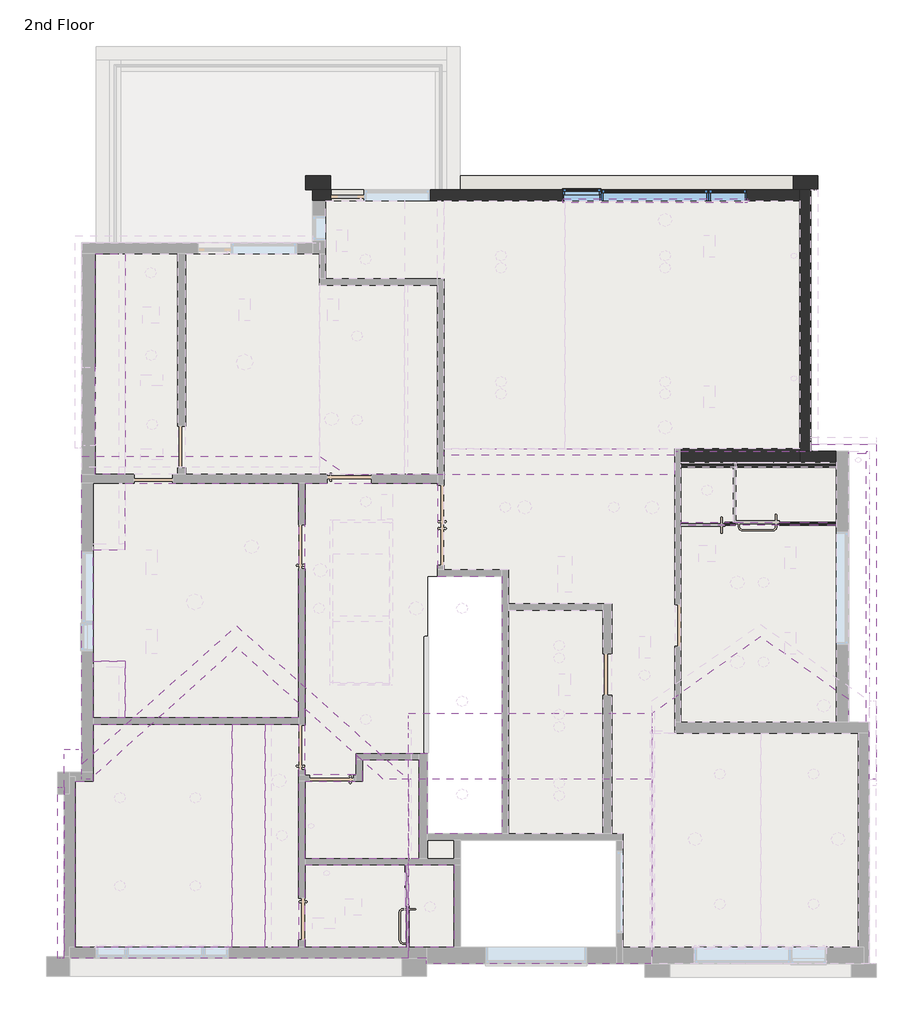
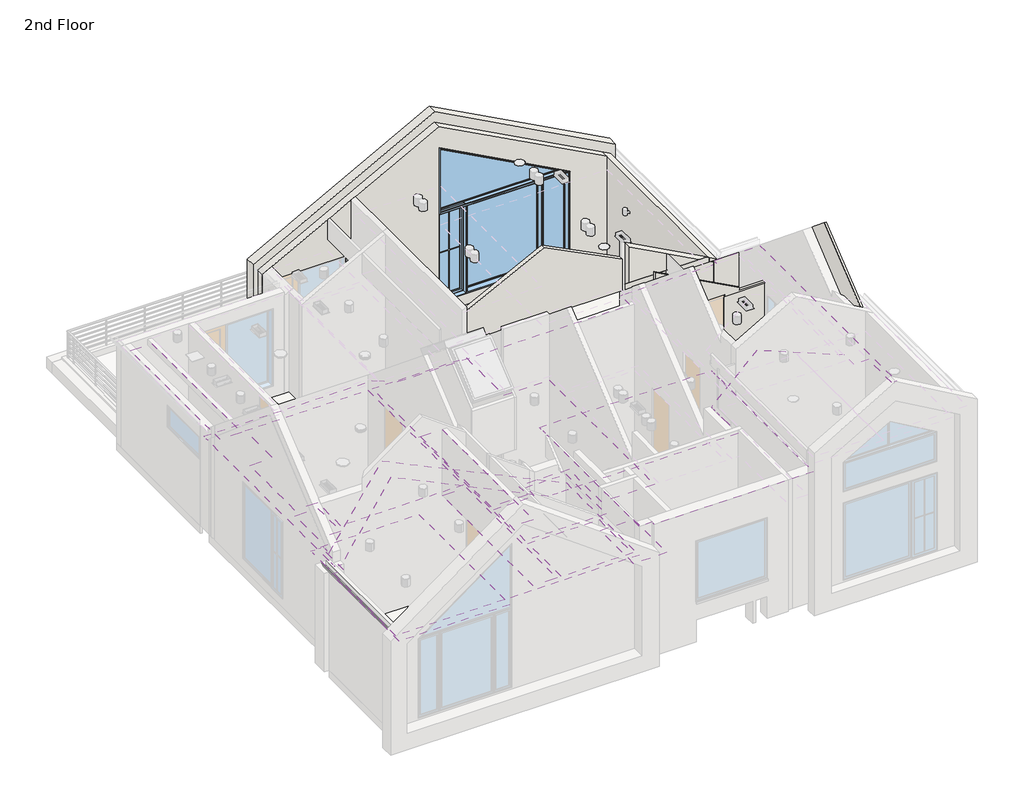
# One storey, part 3 of 6: 12 walls, 10 coverings, 4 windows, 3 roofs, 1 pipe segment, 1 slab.
"""IFC4 building model written with IfcOpenShell, lengths in millimetres."""

from ifc_helpers import new_model, si_unit, point, frame, frame_2d, origin, place, context, project, spatial, polyline, circle_curve, ellipse_curve, trimmed, segment, composite_curve, outline, extrude, faceted_brep, transform, mapped, element, save
from ifc_brep_helpers import plane_surface, revolved_surface, advanced_brep
from components import default_1_c5782fb5, default_1_9d9d8e98, default_1_65789cbf, triangle_window_default_1_4486b977

model = new_model("IFC4")

# Units and contexts
model_context = context("Model", 3, world=origin())
ifc_project = project(units=[si_unit("LENGTHUNIT", "METRE", prefix="MILLI")], contexts=[model_context])

# Site, building, storey
site = spatial("IfcSite", under=ifc_project)
building = spatial("IfcBuilding", under=site)
storey = spatial("IfcBuildingStorey", under=building, Name="2nd Floor", Elevation=3048.0)

# Coverings
placement = place(None, origin())
element("IfcCovering", 1, ObjectType="1/2\" Ceiling", at=placement, inside=storey, context=model_context, shape_type="SweptSolid", body=[
    extrude(outline(polyline([(10907.0017773, 3624.5909405), (11529.2049773, 3624.5909405), (11529.2049773, -490.2090595), (10907.0017773, -490.2090595), (10907.0017773, 3624.5909405)]), holes=[composite_curve([segment(trimmed(circle_curve(frame_2d((11218.1517773, 1567.1909405)), 87.3), [point((11305.4517773, 1567.1909405))], [point((11130.8517773, 1567.1909405))], True, "CARTESIAN"), True, "CONTINUOUS"), segment(trimmed(circle_curve(frame_2d((11218.1517773, 1567.1909405)), 87.3), [point((11130.8517773, 1567.1909405))], [point((11305.4517773, 1567.1909405))], True, "CARTESIAN"), True, "CONTINUOUS")], self_intersect=False)]), frame((0.0, 0.0, 5791.2), z_axis=(0.0, 0.0, 1.0), x_axis=(1.0, 0.0, 0.0)), (0.0, 0.0, 1.0), 12.7),
])
element("IfcCovering", 2, ObjectType="1/2\" Ceiling", at=placement, inside=storey, context=model_context, shape_type="SweptSolid", body=[
    extrude(outline(polyline([(10297.4017773, 3624.5909405), (10907.0017773, 3624.5909405), (10907.0017773, -490.2090595), (10297.4017773, -490.2090595), (10297.4017773, 3624.5909405)])), frame((0.0, 0.0, 7620.0), z_axis=(0.0, 0.0, 1.0), x_axis=(1.0, 0.0, 0.0)), (0.0, 0.0, 1.0), 12.7),
])
element("IfcCovering", 3, ObjectType="1/2\" Ceiling", at=placement, inside=storey, context=model_context, shape_type="SweptSolid", body=[
    extrude(outline(polyline([(11529.2049773, 8069.5909405), (11529.2049773, 3738.8909405), (8328.9017773, 3738.8909405), (8328.9017773, 4786.6409405), (7731.9049773, 4786.6409405), (7731.9049773, 6837.6909405), (8328.9017773, 6837.6909405), (8328.9017773, 8069.5909405), (11529.2049773, 8069.5909405)]), holes=[polyline([(8728.9517773, 6818.6409405), (8728.9517773, 6399.5409405), (8894.0517773, 6399.5409405), (8894.0517773, 6818.6409405), (8728.9517773, 6818.6409405)]), polyline([(8728.9517773, 4939.0409405), (8894.0517773, 4939.0409405), (8894.0517773, 5358.1409405), (8728.9517773, 5358.1409405), (8728.9517773, 4939.0409405)])]), frame((0.0, 0.0, 5791.2), z_axis=(0.0, 0.0, 1.0), x_axis=(1.0, 0.0, 0.0)), (0.0, 0.0, 1.0), 12.7),
])
element("IfcCovering", 4, ObjectType="1/2\" Ceiling", at=placement, inside=storey, context=model_context, shape_type="SweptSolid", body=[
    extrude(outline(polyline([(8328.9017773, 3738.8909405), (7731.9049773, 3738.8909405), (7731.9049773, 4786.6409405), (8328.9017773, 4786.6409405), (8328.9017773, 3738.8909405)])), frame((0.0, 0.0, 5638.8), z_axis=(0.0, 0.0, 1.0), x_axis=(1.0, 0.0, 0.0)), (0.0, 0.0, 1.0), 12.7),
])
element("IfcCovering", 5, ObjectType="1/2\" Ceiling", at=placement, inside=storey, context=model_context, shape_type="SweptSolid", body=[
    extrude(outline(polyline([(8328.9017773, 8069.5909405), (8328.9017773, 6837.6909405), (7731.9049773, 6837.6909405), (7731.9049773, 8069.5909405), (8328.9017773, 8069.5909405)])), frame((0.0, 0.0, 5638.8), z_axis=(0.0, 0.0, 1.0), x_axis=(1.0, 0.0, 0.0)), (0.0, 0.0, 1.0), 12.7),
    extrude(outline(polyline([(8328.9017773, 8234.6909405), (7770.0049773, 8234.6909405), (7770.0049773, 12298.6909405), (8328.9017773, 12298.6909405), (8328.9017773, 8234.6909405)])), frame((0.0, 0.0, 5638.8), z_axis=(0.0, 0.0, 1.0), x_axis=(1.0, 0.0, 0.0)), (0.0, 0.0, 1.0), 12.7),
])
element("IfcCovering", 6, ObjectType="1/2\" Ceiling", at=placement, inside=storey, context=model_context, shape_type="SweptSolid", body=[
    extrude(outline(polyline([(13504.1517773, -490.2090595), (11643.5049773, -490.2090595), (11643.5049773, 1027.4409405), (13504.1517773, 1027.4409405), (13504.1517773, -490.2090595)]), holes=[polyline([(12176.8033398, -128.2590595), (12176.8033398, 36.8409405), (11808.5033398, 36.8409405), (11808.5033398, -128.2590595), (12176.8033398, -128.2590595)])]), frame((0.0, 0.0, 5791.2), z_axis=(0.0, 0.0, 1.0), x_axis=(1.0, 0.0, 0.0)), (0.0, 0.0, 1.0), 12.7),
])
element("IfcCovering", 7, ObjectType="1/2\" Ceiling", at=placement, inside=storey, context=model_context, shape_type="SweptSolid", body=[
    extrude(outline(polyline([(14399.5017773, -490.2090595), (13529.5517773, -490.2090595), (13529.5517773, 1027.4409405), (14399.5017773, 1027.4409405), (14399.5017773, -490.2090595)]), holes=[composite_curve([segment(trimmed(circle_curve(frame_2d((13953.8080273, 252.7409405)), 87.3), [point((14041.1080273, 252.7409405))], [point((13866.5080273, 252.7409405))], True, "CARTESIAN"), True, "CONTINUOUS"), segment(trimmed(circle_curve(frame_2d((13953.8080273, 252.7409405)), 87.3), [point((13866.5080273, 252.7409405))], [point((14041.1080273, 252.7409405))], True, "CARTESIAN"), True, "CONTINUOUS")], self_intersect=False)]), frame((0.0, 0.0, 5486.4), z_axis=(0.0, 0.0, 1.0), x_axis=(1.0, 0.0, 0.0)), (0.0, 0.0, 1.0), 12.7),
])
element("IfcCovering", 8, ObjectType="1/2\" Ceiling", at=placement, inside=storey, context=model_context, shape_type="SweptSolid", body=[
    extrude(outline(polyline([(12704.0673773, 2964.1909405), (13751.6081773, 2964.1909405), (13751.6081773, 1141.7409405), (11643.5049773, 1141.7409405), (11643.5049773, 2570.4909405), (12704.0673773, 2570.4909405), (12704.0673773, 2964.1909405)])), frame((0.0, 0.0, 5791.2), z_axis=(0.0, 0.0, 1.0), x_axis=(1.0, 0.0, 0.0)), (0.0, 0.0, 1.0), 12.7),
])
element("IfcCovering", 9, ObjectType="1/2\" Ceiling", at=placement, inside=storey, context=model_context, shape_type="SweptSolid", body=[
    extrude(outline(polyline([(15282.0549773, 6355.0909405), (15282.0549773, 1598.9409405), (13904.0081773, 1598.9409405), (13904.0081773, 3078.4909405), (12589.7673773, 3078.4909405), (12589.7673773, 2684.7909405), (11643.5049773, 2684.7909405), (11643.5049773, 8069.5909405), (14094.6049773, 8069.5909405), (14094.6049773, 6355.0909405), (15282.0549773, 6355.0909405)]), holes=[composite_curve([segment(trimmed(circle_curve(frame_2d((12767.5517773, 3707.1409405)), 87.3), [point((12854.8517773, 3707.1409405))], [point((12680.2517773, 3707.1409405))], True, "CARTESIAN"), True, "CONTINUOUS"), segment(trimmed(circle_curve(frame_2d((12767.5517773, 3707.1409405)), 87.3), [point((12680.2517773, 3707.1409405))], [point((12854.8517773, 3707.1409405))], True, "CARTESIAN"), True, "CONTINUOUS")], self_intersect=False), composite_curve([segment(trimmed(circle_curve(frame_2d((14545.5517773, 5758.1909405)), 87.3), [point((14632.8517773, 5758.1909405))], [point((14458.2517773, 5758.1909405))], True, "CARTESIAN"), True, "CONTINUOUS"), segment(trimmed(circle_curve(frame_2d((14545.5517773, 5758.1909405)), 87.3), [point((14458.2517773, 5758.1909405))], [point((14632.8517773, 5758.1909405))], True, "CARTESIAN"), True, "CONTINUOUS")], self_intersect=False), composite_curve([segment(trimmed(circle_curve(frame_2d((14545.5517773, 4043.6909405)), 87.3), [point((14632.8517773, 4043.6909405))], [point((14458.2517773, 4043.6909405))], True, "CARTESIAN"), True, "CONTINUOUS"), segment(trimmed(circle_curve(frame_2d((14545.5517773, 4043.6909405)), 87.3), [point((14458.2517773, 4043.6909405))], [point((14632.8517773, 4043.6909405))], True, "CARTESIAN"), True, "CONTINUOUS")], self_intersect=False), composite_curve([segment(trimmed(circle_curve(frame_2d((14545.5517773, 2329.1909405)), 87.3), [point((14458.2517773, 2329.1909405))], [point((14632.8517773, 2329.1909405))], True, "CARTESIAN"), True, "CONTINUOUS"), segment(trimmed(circle_curve(frame_2d((14545.5517773, 2329.1909405)), 87.3), [point((14632.8517773, 2329.1909405))], [point((14458.2517773, 2329.1909405))], True, "CARTESIAN"), True, "CONTINUOUS")], self_intersect=False), composite_curve([segment(trimmed(circle_curve(frame_2d((11903.9517773, 5758.1909405)), 87.3), [point((11991.2517773, 5758.1909405))], [point((11816.6517773, 5758.1909405))], True, "CARTESIAN"), True, "CONTINUOUS"), segment(trimmed(circle_curve(frame_2d((11903.9517773, 5758.1909405)), 87.3), [point((11816.6517773, 5758.1909405))], [point((11991.2517773, 5758.1909405))], True, "CARTESIAN"), True, "CONTINUOUS")], self_intersect=False), polyline([(13205.6049773, 4392.9409405), (13205.6049773, 7339.3409405), (12157.2979371, 7339.3409405), (12157.2979371, 4392.9409405), (13205.6049773, 4392.9409405)]), composite_curve([segment(trimmed(circle_curve(frame_2d((12767.5517773, 7726.6909405)), 87.3), [point((12854.8517773, 7726.6909405))], [point((12680.2517773, 7726.6909405))], True, "CARTESIAN"), True, "CONTINUOUS"), segment(trimmed(circle_curve(frame_2d((12767.5517773, 7726.6909405)), 87.3), [point((12680.2517773, 7726.6909405))], [point((12854.8517773, 7726.6909405))], True, "CARTESIAN"), True, "CONTINUOUS")], self_intersect=False), polyline([(13237.4517773, 7840.9909405), (13072.3517773, 7840.9909405), (13072.3517773, 7421.8909405), (13237.4517773, 7421.8909405), (13237.4517773, 7840.9909405)])]), frame((0.0, 0.0, 5791.2), z_axis=(0.0, 0.0, 1.0), x_axis=(1.0, 0.0, 0.0)), (0.0, 0.0, 1.0), 12.7),
])
element("IfcCovering", 10, ObjectType="1/2\" Ceiling", at=placement, inside=storey, context=model_context, shape_type="AdvancedBrep", body=[
    advanced_brep(
    [(7731.9049773, 2570.4909405, 5739.4345252), (7408.2871773, 2570.4909405, 5502.1481369), (7408.2871773, -490.2090595, 5502.1481369), (10297.4017773, -490.2090595, 7620.5346065), (10297.4017773, 3624.5909405, 7620.5346065), (7731.9049773, 3624.5909405, 5739.4345252), (8230.2843657, 2178.3909405, 6104.8614117), (8230.2843657, 2352.9909405, 6104.8614117), (9621.6166892, 2178.3909405, 7125.0284791), (9621.6166892, 2352.9909405, 7125.0284791), (8230.2843657, 552.7909405, 6104.8614117), (8230.2843657, 727.3909405, 6104.8614117), (9621.6166892, 552.7909405, 7125.0284791), (9621.6166892, 727.3909405, 7125.0284791), (7408.2871773, 2570.4909405, 5486.4), (7731.9049773, 2570.4909405, 5723.6863883), (7731.9049773, 3624.5909405, 5723.6863883), (10297.4017773, 3624.5909405, 7604.7864697), (10297.4017773, -490.2090595, 7604.7864697), (7408.2871773, -490.2090595, 5486.4), (8161.0019077, 2318.8062021, 6038.3132748), (8161.0019077, 2212.575679, 6038.3132748), (8230.2843657, 2178.3909405, 6089.1132748), (8230.2843657, 2352.9909405, 6089.1132748), (9552.3342312, 2318.8062021, 7058.4803422), (9552.3342312, 2212.575679, 7058.4803422), (9621.6166892, 2178.3909405, 7109.2803422), (9621.6166892, 2352.9909405, 7109.2803422), (8161.0019077, 693.2062021, 6038.3132748), (8161.0019077, 586.975679, 6038.3132748), (8230.2843657, 552.7909405, 6089.1132748), (8230.2843657, 727.3909405, 6089.1132748), (9552.3342312, 693.2062021, 7058.4803422), (9552.3342312, 586.975679, 7058.4803422), (9621.6166892, 552.7909405, 7109.2803422), (9621.6166892, 727.3909405, 7109.2803422)],
    [
        (0, 1),
        (1, 2),
        (2, 3),
        (3, 4),
        (4, 5),
        (5, 0),
        (6, 7, ellipse_curve(frame((8230.2843657, 2265.6909405, 6104.8614117), z_axis=(0.5913096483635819, 0.0, -0.806444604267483), x_axis=(0.8064446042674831, 0.0, 0.5913096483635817)), 108.2529408, 87.3)),
        (7, 6, ellipse_curve(frame((8230.2843657, 2265.6909405, 6104.8614117), z_axis=(0.5913096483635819, 0.0, -0.806444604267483), x_axis=(0.8064446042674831, 0.0, 0.5913096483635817)), 108.2529408, 87.3)),
        (8, 9, ellipse_curve(frame((9621.6166892, 2265.6909405, 7125.0284791), z_axis=(0.5913096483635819, 0.0, -0.806444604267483), x_axis=(0.8064446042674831, 0.0, 0.5913096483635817)), 108.2529408, 87.3)),
        (9, 8, ellipse_curve(frame((9621.6166892, 2265.6909405, 7125.0284791), z_axis=(0.5913096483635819, 0.0, -0.806444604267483), x_axis=(0.8064446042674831, 0.0, 0.5913096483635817)), 108.2529408, 87.3)),
        (10, 11, ellipse_curve(frame((8230.2843657, 640.0909405, 6104.8614117), z_axis=(0.5913096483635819, 0.0, -0.806444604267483), x_axis=(0.8064446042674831, 0.0, 0.5913096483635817)), 108.2529408, 87.3)),
        (11, 10, ellipse_curve(frame((8230.2843657, 640.0909405, 6104.8614117), z_axis=(0.5913096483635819, 0.0, -0.806444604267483), x_axis=(0.8064446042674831, 0.0, 0.5913096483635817)), 108.2529408, 87.3)),
        (12, 13, ellipse_curve(frame((9621.6166892, 640.0909405, 7125.0284791), z_axis=(0.5913096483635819, 0.0, -0.806444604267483), x_axis=(0.8064446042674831, 0.0, 0.5913096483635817)), 108.2529408, 87.3)),
        (13, 12, ellipse_curve(frame((9621.6166892, 640.0909405, 7125.0284791), z_axis=(0.5913096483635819, 0.0, -0.806444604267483), x_axis=(0.8064446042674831, 0.0, 0.5913096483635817)), 108.2529408, 87.3)),
        (14, 15),
        (15, 16),
        (16, 17),
        (17, 18),
        (18, 19),
        (19, 14),
        (20, 21),
        (21, 22, ellipse_curve(frame((8230.2843657, 2265.6909405, 6089.1132748), z_axis=(-0.5913096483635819, 0.0, 0.806444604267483), x_axis=(0.8064446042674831, 0.0, 0.5913096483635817)), 108.2529408, 87.3)),
        (22, 23, ellipse_curve(frame((8230.2843657, 2265.6909405, 6089.1132748), z_axis=(-0.5913096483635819, 0.0, 0.806444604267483), x_axis=(0.8064446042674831, 0.0, 0.5913096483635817)), 108.2529408, 87.3)),
        (23, 20, ellipse_curve(frame((8230.2843657, 2265.6909405, 6089.1132748), z_axis=(-0.5913096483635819, 0.0, 0.806444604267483), x_axis=(0.8064446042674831, 0.0, 0.5913096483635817)), 108.2529408, 87.3)),
        (24, 25),
        (25, 26, ellipse_curve(frame((9621.6166892, 2265.6909405, 7109.2803422), z_axis=(-0.5913096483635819, 0.0, 0.806444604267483), x_axis=(0.8064446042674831, 0.0, 0.5913096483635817)), 108.2529408, 87.3)),
        (26, 27, ellipse_curve(frame((9621.6166892, 2265.6909405, 7109.2803422), z_axis=(-0.5913096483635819, 0.0, 0.806444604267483), x_axis=(0.8064446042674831, 0.0, 0.5913096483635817)), 108.2529408, 87.3)),
        (27, 24, ellipse_curve(frame((9621.6166892, 2265.6909405, 7109.2803422), z_axis=(-0.5913096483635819, 0.0, 0.806444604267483), x_axis=(0.8064446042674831, 0.0, 0.5913096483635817)), 108.2529408, 87.3)),
        (28, 29),
        (29, 30, ellipse_curve(frame((8230.2843657, 640.0909405, 6089.1132748), z_axis=(-0.5913096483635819, 0.0, 0.806444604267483), x_axis=(0.8064446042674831, 0.0, 0.5913096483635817)), 108.2529408, 87.3)),
        (30, 31, ellipse_curve(frame((8230.2843657, 640.0909405, 6089.1132748), z_axis=(-0.5913096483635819, 0.0, 0.806444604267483), x_axis=(0.8064446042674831, 0.0, 0.5913096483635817)), 108.2529408, 87.3)),
        (31, 28, ellipse_curve(frame((8230.2843657, 640.0909405, 6089.1132748), z_axis=(-0.5913096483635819, 0.0, 0.806444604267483), x_axis=(0.8064446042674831, 0.0, 0.5913096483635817)), 108.2529408, 87.3)),
        (32, 33),
        (33, 34, ellipse_curve(frame((9621.6166892, 640.0909405, 7109.2803422), z_axis=(-0.5913096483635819, 0.0, 0.806444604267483), x_axis=(0.8064446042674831, 0.0, 0.5913096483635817)), 108.2529408, 87.3)),
        (34, 35, ellipse_curve(frame((9621.6166892, 640.0909405, 7109.2803422), z_axis=(-0.5913096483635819, 0.0, 0.806444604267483), x_axis=(0.8064446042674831, 0.0, 0.5913096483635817)), 108.2529408, 87.3)),
        (35, 32, ellipse_curve(frame((9621.6166892, 640.0909405, 7109.2803422), z_axis=(-0.5913096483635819, 0.0, 0.806444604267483), x_axis=(0.8064446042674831, 0.0, 0.5913096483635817)), 108.2529408, 87.3)),
        (0, 15),
        (14, 1),
        (19, 2),
        (18, 3),
        (17, 4),
        (16, 5),
        (20, 21, circle_curve(frame((8230.2843657, 2265.6909405, 6038.3132748), z_axis=(0.0, 0.0, 1.0), x_axis=(0.0, 1.0, 0.0)), 87.3)),
        (23, 7),
        (6, 22),
        (24, 25, circle_curve(frame((9621.6166892, 2265.6909405, 7058.4803422), z_axis=(0.0, 0.0, 1.0), x_axis=(0.0, 1.0, 0.0)), 87.3)),
        (27, 9),
        (8, 26),
        (28, 29, circle_curve(frame((8230.2843657, 640.0909405, 6038.3132748), z_axis=(0.0, 0.0, 1.0), x_axis=(0.0, 1.0, 0.0)), 87.3)),
        (31, 11),
        (10, 30),
        (32, 33, circle_curve(frame((9621.6166892, 640.0909405, 7058.4803422), z_axis=(0.0, 0.0, 1.0), x_axis=(0.0, 1.0, 0.0)), 87.3)),
        (35, 13),
        (12, 34),
    ],
    [
        plane_surface(frame((7408.2871773, -490.2090595, 5502.1481369), z_axis=(-0.5913096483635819, 0.0, 0.806444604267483), x_axis=(0.806444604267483, 0.0, 0.5913096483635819))),
        plane_surface(frame((7408.2871773, -490.2090595, 5486.4), z_axis=(0.5913096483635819, 0.0, -0.806444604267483), x_axis=(-0.806444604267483, 0.0, -0.5913096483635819))),
        plane_surface(frame((7731.9049773, 2570.4909405, 5739.4345252), z_axis=(0.0, 1.0, 0.0), x_axis=(0.0, 0.0, -1.0))),
        plane_surface(frame((7408.2871773, 2570.4909405, 5502.1481369), z_axis=(-1.0, 0.0, 0.0), x_axis=(0.0, 0.0, -1.0))),
        plane_surface(frame((7408.2871773, -490.2090595, 5502.1481369), z_axis=(0.0, -1.0, 0.0), x_axis=(0.0, 0.0, -1.0))),
        plane_surface(frame((10297.4017773, -490.2090595, 7620.5346065), z_axis=(1.0, 0.0, 0.0), x_axis=(0.0, 0.0, -1.0))),
        plane_surface(frame((10297.4017773, 3624.5909405, 7620.5346065), z_axis=(0.0, 1.0, 0.0), x_axis=(0.0, 0.0, -1.0))),
        plane_surface(frame((7731.9049773, 3624.5909405, 5739.4345252), z_axis=(-1.0, 0.0, 0.0), x_axis=(0.0, 0.0, -1.0))),
        plane_surface(frame((8230.2843657, 2352.9909405, 6038.3132748), z_axis=(0.0, 0.0, 1.0), x_axis=(1.0, 0.0, 0.0))),
        revolved_surface(polyline([(8230.2843657, 2352.9909405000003, 6168.872420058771), (8230.2843657, 2352.9909405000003, 6025.1022664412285)]), (8230.2843657, 2265.6909405, 6038.3132748), (0.0, 0.0, 1.0)),
        plane_surface(frame((9621.6166892, 2352.9909405, 7058.4803422), z_axis=(0.0, 0.0, 1.0), x_axis=(1.0, 0.0, 0.0))),
        revolved_surface(polyline([(9621.6166892, 2352.9909405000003, 7189.039487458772), (9621.6166892, 2352.9909405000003, 7045.269333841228)]), (9621.6166892, 2265.6909405, 7058.4803422), (0.0, 0.0, 1.0)),
        plane_surface(frame((8230.2843657, 727.3909405, 6038.3132748), z_axis=(0.0, 0.0, 1.0), x_axis=(1.0, 0.0, 0.0))),
        revolved_surface(polyline([(8230.2843657, 727.3909404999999, 6168.872420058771), (8230.2843657, 727.3909404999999, 6025.1022664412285)]), (8230.2843657, 640.0909405, 6038.3132748), (0.0, 0.0, 1.0)),
        plane_surface(frame((9621.6166892, 727.3909405, 7058.4803422), z_axis=(0.0, 0.0, 1.0), x_axis=(1.0, 0.0, 0.0))),
        revolved_surface(polyline([(9621.6166892, 727.3909404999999, 7189.039487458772), (9621.6166892, 727.3909404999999, 7045.269333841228)]), (9621.6166892, 640.0909405, 7058.4803422), (0.0, 0.0, 1.0)),
    ],
    [
        (0, [[1, 2, 3, 4, 5, 6], [7, 8], [9, 10], [11, 12], [13, 14]]),
        (1, [[15, 16, 17, 18, 19, 20], [21, 22, 23, 24], [25, 26, 27, 28], [29, 30, 31, 32], [33, 34, 35, 36]]),
        (2, [[-1, 37, -15, 38]]),
        (3, [[-2, -38, -20, 39]]),
        (4, [[-3, -39, -19, 40]]),
        (5, [[-4, -40, -18, 41]]),
        (6, [[-5, -41, -17, 42]]),
        (7, [[-6, -42, -16, -37]]),
        (8, [[43, -21]]),
        (9, [[-43, -24, 44, -7, 45, -22]]),
        (9, [[-44, -23, -45, -8]]),
        (10, [[46, -25]]),
        (11, [[-46, -28, 47, -9, 48, -26]]),
        (11, [[-48, -10, -47, -27]]),
        (12, [[49, -29]]),
        (13, [[-49, -32, 50, -11, 51, -30]]),
        (13, [[-50, -31, -51, -12]]),
        (14, [[52, -33]]),
        (15, [[-52, -36, 53, -13, 54, -34]]),
        (15, [[-53, -35, -54, -14]]),
    ],
),
])

# Pipe segment
element("IfcPipeSegment", 11, ObjectType="Gutter", at=placement, inside=storey, context=model_context, shape_type="SweptSolid", body=[
    extrude(outline(polyline([(5868.2191361, 7205.0871773), (5993.1313686, 7205.0871773), (5993.1313686, 7201.9121773), (5871.3941361, 7201.9121773), (5871.3941361, 7133.2494746), (5970.9063686, 7095.1494746), (5970.9063686, 7083.2621773), (5977.2563686, 7083.2621773), (5977.2563686, 7092.7871773), (5980.4313686, 7092.7871773), (5980.4313686, 7080.0871773), (5967.7313686, 7080.0871773), (5967.7313686, 7092.7871773), (5868.2191361, 7130.8871773), (5868.2191361, 7205.0871773)])), frame((0.0, -693.4090595, 0.0), z_axis=(0.0, 1.0, 0.0), x_axis=(0.0, 0.0, 1.0)), (0.0, 0.0, 1.0), 3148.6159063),
])

# Roofs
element("IfcRoof", 12, ObjectType="Planitar Roof - 5\"", at=placement, inside=storey, context=model_context, shape_type="Brep", body=[
    faceted_brep([(22184.6017773, 8787.1409405, 5619.75), (22184.6017773, 5565.4864039, 8262.7772128), (7528.7049773, 5565.4864039, 8262.7772128), (7528.7049773, 8361.6909405, 5968.7867806), (11910.2049773, 8361.6909405, 5968.7867806), (11910.2049773, 8516.2346414, 5842.0), (7528.7049773, 8516.2346414, 5842.0), (7528.7049773, 8561.6637925, 5804.7301806), (11910.2049773, 8561.6637925, 5804.7301806), (12397.7017773, 8234.6909405, 6072.9768644), (14094.6049773, 8234.6909405, 6072.9768644), (18469.7549773, 8234.6909405, 6072.9768644), (18469.7549773, 8660.1409405, 5723.9400838), (18584.0549773, 8660.1409405, 5723.9400838), (20781.1549773, 8660.1409405, 5723.9400838), (20984.3549773, 8660.1409405, 5723.9400838), (20984.3549773, 8787.1409405, 5619.75), (13204.1979371, 5629.7957576, 8210.0181817), (13204.1979371, 6650.9303802, 7372.2850962), (12162.7979371, 6650.9303802, 7372.2850962), (12162.7979371, 5629.7957576, 8210.0181817), (22184.6017773, 2608.5909405, 5835.65), (22057.6017773, 2608.5909405, 5835.65), (22057.6017773, 3656.3409405, 6695.6812621), (21676.5049773, 3656.3409405, 6695.6812621), (21676.5764473, 4086.295076, 7048.6032356), (20051.0042661, 5237.4002605, 7993.4721878), (18095.2017773, 3852.4513724, 6856.6558288), (18044.4017773, 3816.4787198, 6827.1281687), (18044.4017773, 3730.3127372, 6756.4), (13555.1550523, 3730.3127372, 6756.4), (13555.1550523, 3575.5924894, 6629.4), (18044.4017773, 3575.5924894, 6629.4), (18044.4017773, 2608.5909405, 5835.65), (13086.9125664, 2608.5909405, 5835.65), (10384.9356959, 5038.5078926, 7830.2141069), (7682.9588253, 2608.5909405, 5835.65), (7528.7049773, 2608.5909405, 5835.65), (13204.1979371, 5501.6609854, 8210.3869907), (12162.7979371, 5501.6609854, 8210.3869907), (12162.7979371, 4480.7476536, 7372.3842408), (13204.1979371, 4480.7476536, 7372.3842408), (7528.7049773, 5565.4647087, 8427.0648308), (22184.6017773, 5565.4647087, 8427.0648308), (22184.6017773, 8787.1409405, 5784.0198194), (20984.3549773, 8787.1409405, 5784.0198194), (20984.3549773, 8660.1409405, 5888.2099031), (20713.4527694, 8660.1409405, 5888.2099031), (18584.0549773, 8660.1409405, 5888.2099031), (18469.7549773, 8660.1409405, 5888.2099031), (18469.7549773, 8234.6909405, 6237.2466837), (12397.7017773, 8234.6909405, 6237.2466837), (11910.2049773, 8561.6637925, 5969.0), (7528.7049773, 8561.6637925, 5969.0), (13204.1979371, 5710.3470159, 8308.2042031), (12162.7979371, 5710.3470159, 8308.2042031), (12162.7979371, 6731.4816384, 7470.4711176), (13204.1979371, 6731.4816384, 7470.4711176), (7528.7049773, 2889.3562078, 6230.4177569), (7528.7049773, 2697.5014331, 6072.9363883), (7528.7049773, 2608.5909405, 5999.9554261), (7682.9588253, 2608.5909405, 5999.9554261), (10384.9356959, 5038.5078926, 7994.519533), (13086.9125664, 2608.5909405, 5999.9554261), (13331.0707258, 2608.5909405, 5999.9554261), (13545.8482122, 2608.5909405, 5999.9554261), (13555.1550523, 2608.5909405, 5999.9554261), (13605.9550523, 2608.5909405, 5999.9554261), (18044.4017773, 2608.5909405, 5999.9554261), (18044.4017773, 3375.4241725, 6629.4), (13605.9550523, 3375.4241725, 6629.4), (13555.1550523, 3375.4241725, 6629.4), (13555.1550523, 3530.1444203, 6756.4), (18044.4017773, 3530.1444203, 6756.4), (18044.4017773, 3816.4787198, 6991.4335948), (18095.2017773, 3852.4513724, 7020.9612549), (20051.0042661, 5237.4002605, 8157.7776139), (21676.5764473, 4086.295076, 7212.9086617), (21676.5049773, 3656.3409405, 6859.9866882), (22057.6017773, 3656.3409405, 6859.9866882), (22057.6017773, 2608.5909405, 5999.9554261), (22184.6017773, 2608.5909405, 5999.9554261), (12162.7979371, 5421.0837979, 8308.5517342), (13204.1979371, 5421.0837979, 8308.5517342), (13204.1979371, 4400.1704661, 7470.5489842), (12162.7979371, 4400.1704661, 7470.5489842), (7528.7049773, 8361.6909405, 5969.0), (7528.7049773, 8561.6637925, 5842.0), (11910.2049773, 8561.6637925, 5842.0), (11910.2049773, 8361.6909405, 5969.0)], [[[0, 1, 2, 3, 4, 5, 6, 7, 8, 9, 10, 11, 12, 13, 14, 15, 16], [17, 18, 19, 20]], [[2, 1, 21, 22, 23, 24, 25, 26, 27, 28, 29, 30, 31, 32, 33, 34, 35, 36, 37], [38, 39, 40, 41]], [[42, 43, 44, 45, 46, 47, 48, 49, 50, 51, 52, 53], [54, 55, 56, 57]], [[43, 42, 58, 59, 60, 61, 62, 63, 64, 65, 66, 67, 68, 69, 70, 71, 72, 73, 74, 75, 76, 77, 78, 79, 80, 81], [82, 83, 84, 85]], [[60, 37, 36, 61]], [[21, 81, 80, 22]], [[63, 34, 33, 68, 67, 66, 65, 64]], [[44, 0, 16, 45]], [[2, 37, 60, 59, 58, 42, 53, 86, 3]], [[7, 6, 87]], [[1, 0, 44, 43, 81, 21]], [[62, 35, 34, 63]], [[35, 62, 61, 36]], [[76, 26, 25, 77]], [[26, 76, 75, 74, 28, 27]], [[68, 33, 32, 69]], [[28, 74, 73, 29]], [[23, 22, 80, 79]], [[23, 79, 78, 24]], [[77, 25, 24, 78]], [[31, 71, 70, 69, 32]], [[72, 30, 29, 73]], [[71, 31, 30, 72]], [[5, 88, 87, 6]], [[89, 86, 53, 52]], [[86, 89, 4, 3]], [[89, 52, 88, 5, 4]], [[46, 15, 14, 13, 12, 49, 48, 47]], [[15, 46, 45, 16]], [[11, 50, 49, 12]], [[51, 9, 8, 88, 52]], [[50, 11, 10, 9, 51]], [[8, 7, 87, 88]], [[82, 39, 38, 83]], [[39, 82, 85, 40]], [[40, 85, 84, 41]], [[83, 38, 41, 84]], [[54, 17, 20, 55]], [[17, 54, 57, 18]], [[18, 57, 56, 19]], [[55, 20, 19, 56]]]),
])
element("IfcRoof", 13, ObjectType="Planitar Roof - 5\"", at=placement, inside=storey, context=model_context, shape_type="Brep", body=[
    faceted_brep([(7205.0871773, -693.4090595, 5835.65), (7205.0871773, 2329.1909405, 5835.65), (7205.0871773, 2980.9398432, 5835.65), (7205.0871773, 3161.0409405, 5835.65), (7412.2940606, 3161.0409405, 5987.5803727), (7528.7049773, 3161.0409405, 6072.9363883), (7528.7049773, 2897.66975, 6072.9363883), (7528.7049773, 2697.5014331, 6072.9363883), (7535.2871773, 2703.3811429, 6077.762657), (10380.1196602, 5244.5967436, 8163.680135), (10380.1162773, -693.4090595, 8163.6776546), (7205.0871773, 3161.0409405, 5993.1313686), (7205.0871773, 2455.2068468, 5993.1313686), (7205.0871773, -693.4090595, 5993.1313686), (10380.1162773, -693.4090595, 8321.1590233), (10380.1196602, 5436.4515182, 8321.1615037), (7535.2871773, 2895.2359175, 6235.2440257), (7528.7049773, 2889.3562078, 6230.4177569), (7528.7049773, 3089.5245246, 6230.4177569), (7528.7049773, 3161.0409405, 6230.4177569), (7205.0871773, 3161.0409405, 5987.5803727), (13331.0707258, 2608.5909405, 5999.9554261), (13555.1550523, 2608.5909405, 5835.65), (13555.1550523, -693.4090595, 5835.65), (13555.1550523, -693.4090595, 5993.1313686), (13555.1550523, 2608.5909405, 5993.1313686), (13545.8482122, 2608.5909405, 5999.9554261)], [[[0, 1, 2, 3, 4, 5, 6, 7, 8, 9, 10]], [[11, 12, 13, 14, 15, 16, 17, 18, 19]], [[13, 12, 11, 20, 3, 2, 1, 0]], [[10, 9, 21, 22, 23]], [[15, 14, 24, 25, 26]], [[25, 24, 23, 22]], [[13, 0, 10, 14]], [[10, 23, 24, 14]], [[3, 20, 11, 19, 5, 4]], [[9, 8, 7, 17, 16, 15, 26, 21]], [[25, 22, 21, 26]], [[5, 19, 18, 17, 7, 6]]]),
])
element("IfcRoof", 14, ObjectType="Planitar Roof - 5\"", at=placement, inside=storey, context=model_context, shape_type="Brep", body=[
    faceted_brep([(18044.4017773, -795.0090595, 6629.4), (13891.5017773, -795.0090595, 6629.4), (13891.5017773, -693.4090595, 6629.4), (13555.1550523, -693.4090595, 6629.4), (13555.1550523, 3375.4241725, 6629.4), (13555.1550523, 3575.5924894, 6629.4), (13555.1550523, 3821.4409405, 6629.4), (18044.4017773, 3821.4409405, 6629.4), (18044.4017773, 3575.5924894, 6629.4), (18044.4017773, 3375.4241725, 6629.4), (13891.5017773, -795.0090595, 6756.4), (18044.4017773, -795.0090595, 6756.4), (18044.4017773, 3530.1444203, 6756.4), (18044.4017773, 3730.3127372, 6756.4), (18044.4017773, 3821.4409405, 6756.4), (13555.1550523, 3821.4409405, 6756.4), (13555.1550523, 3730.3127372, 6756.4), (13555.1550523, 3530.1444203, 6756.4), (13555.1550523, -693.4090595, 6756.4), (13891.5017773, -693.4090595, 6756.4)], [[[0, 1, 2, 3, 4, 5, 6, 7, 8, 9]], [[10, 11, 12, 13, 14, 15, 16, 17, 18, 19]], [[11, 10, 1, 0]], [[10, 19, 2, 1]], [[15, 14, 7, 6]], [[14, 13, 12, 11, 0, 9, 8, 7]], [[19, 18, 3, 2]], [[18, 17, 16, 15, 6, 5, 4, 3]]]),
])

# Slab
element("IfcSlab", 15, ObjectType="Ledge - 2\"", at=placement, inside=storey, context=model_context, shape_type="Brep", body=[
    faceted_brep([(12024.5049773, 13276.5909405, 2997.2), (14050.1549773, 13276.5909405, 2997.2), (14202.5549773, 13276.5909405, 2997.2), (19155.6623773, 13276.5909405, 2997.2), (19269.9623773, 13276.5909405, 2997.2), (20781.1549773, 13276.5909405, 2997.2), (20781.1549773, 8456.9409405, 2997.2), (21447.9049773, 8456.9409405, 2997.2), (21447.9049773, 3453.1409405, 2997.2), (21854.4017773, 3453.1409405, 2997.2), (21854.4017773, -490.2090595, 2997.2), (17511.0017773, -490.2090595, 2997.2), (17511.0017773, 1598.9409405, 2997.2), (15282.0549773, 1598.9409405, 2997.2), (15282.0549773, 6355.0909405, 2997.2), (14151.7549773, 6355.0909405, 2997.2), (13904.0081773, 6355.0909405, 2997.2), (13904.0081773, 4126.2409405, 2997.2), (13904.0081773, 1598.9409405, 2997.2), (14399.5017773, 1598.9409405, 2997.2), (14399.5017773, -490.2090595, 2997.2), (13904.0081773, -490.2090595, 2997.2), (13738.9081773, -490.2090595, 2997.2), (8017.6549773, -490.2090595, 2997.2), (7814.4549773, -490.2090595, 2997.2), (7408.2871773, -490.2090595, 2997.2), (7408.2871773, 2329.1909405, 2997.2), (7408.2871773, 2570.4909405, 2997.2), (7731.9049773, 2570.4909405, 2997.2), (7731.9049773, 2735.5909405, 2997.2), (7731.9049773, 8069.5909405, 2997.2), (7770.0049773, 8069.5909405, 2997.2), (7770.0049773, 12298.6909405, 2997.2), (12024.5049773, 12298.6909405, 2997.2), (12024.5049773, 13276.5909405, 3048.0), (12024.5049773, 12298.6909405, 3048.0), (7770.0049773, 12298.6909405, 3048.0), (7770.0049773, 8069.5909405, 3048.0), (7731.9049773, 8069.5909405, 3048.0), (7731.9049773, 2735.5909405, 3048.0), (7731.9049773, 2570.4909405, 3048.0), (7408.2871773, 2570.4909405, 3048.0), (7408.2871773, 2329.1909405, 3048.0), (7408.2871773, -490.2090595, 3048.0), (14399.5017773, -490.2090595, 3048.0), (14399.5017773, 1598.9409405, 3048.0), (13904.0081773, 1598.9409405, 3048.0), (13904.0081773, 6355.0909405, 3048.0), (14094.6049773, 6355.0909405, 3048.0), (15282.0549773, 6355.0909405, 3048.0), (15282.0549773, 1598.9409405, 3048.0), (17511.0017773, 1598.9409405, 3048.0), (17511.0017773, -490.2090595, 3048.0), (21854.4017773, -490.2090595, 3048.0), (21854.4017773, 3453.1409405, 3048.0), (21447.9049773, 3453.1409405, 3048.0), (21447.9049773, 8456.9409405, 3048.0), (20781.1549773, 8456.9409405, 3048.0), (20781.1549773, 13276.5909405, 3048.0)], [[[0, 1, 2, 3, 4, 5, 6, 7, 8, 9, 10, 11, 12, 13, 14, 15, 16, 17, 18, 19, 20, 21, 22, 23, 24, 25, 26, 27, 28, 29, 30, 31, 32, 33]], [[34, 35, 36, 37, 38, 39, 40, 41, 42, 43, 44, 45, 46, 47, 48, 49, 50, 51, 52, 53, 54, 55, 56, 57, 58]], [[5, 4, 3, 2, 1, 0, 34, 58]], [[6, 5, 58, 57]], [[7, 6, 57, 56]], [[8, 7, 56, 55]], [[25, 24, 23, 22, 21, 20, 44, 43]], [[27, 26, 25, 43, 42, 41]], [[28, 27, 41, 40]], [[32, 31, 37, 36]], [[33, 32, 36, 35]], [[0, 33, 35, 34]], [[14, 13, 50, 49]], [[16, 15, 14, 49, 48, 47]], [[18, 17, 16, 47, 46]], [[19, 18, 46, 45]], [[9, 8, 55, 54]], [[10, 9, 54, 53]], [[11, 10, 53, 52]], [[12, 11, 52, 51]], [[13, 12, 51, 50]], [[20, 19, 45, 44]], [[30, 29, 28, 40, 39, 38]], [[31, 30, 38, 37]]]),
])

# Walls
element("IfcWall", 16, ObjectType="Planitar - Generic 8\"", at=placement, inside=storey, context=model_context, shape_type="Brep", body=[
    faceted_brep([(21447.9049773, 8660.1409405, 5723.9400838), (21447.9049773, 8660.1409405, 3048.0), (20984.3549773, 8660.1409405, 3048.0), (20781.1549773, 8660.1409405, 3048.0), (20781.1549773, 8660.1409405, 5723.9400838), (20984.3549773, 8660.1409405, 5723.9400838), (21447.9049773, 8456.9409405, 3048.0), (21447.9049773, 8456.9409405, 5890.6442178), (20781.1549773, 8456.9409405, 5890.6442178), (20781.1549773, 8456.9409405, 5851.8321946), (20781.1549773, 8456.9409405, 3048.0), (20781.1549773, 8504.2499239, 5851.8321946)], [[[0, 1, 2, 3, 4, 5]], [[6, 7, 8, 9, 10]], [[3, 2, 1, 6, 10]], [[4, 3, 10, 9, 8, 11]], [[0, 7, 6, 1]], [[0, 5, 4, 11, 8, 7]]]),
])
element("IfcWall", 17, ObjectType="Planitar - Generic 8\"", at=placement, inside=storey, context=model_context, shape_type="Brep", body=[
    faceted_brep([(20984.3549773, 8660.1409405, 3048.0), (20984.3549773, 13479.7909405, 3048.0), (20984.3549773, 13479.7909405, 5742.6488962), (20984.3549773, 8660.1409405, 5742.6488962), (20781.1549773, 8660.1409405, 3048.0), (20781.1549773, 8660.1409405, 5723.9400838), (20781.1549773, 8660.1409405, 5851.8321946), (20781.1549773, 8698.2409405, 5851.8321946), (20781.1549773, 13276.5909405, 5851.8321946), (20781.1549773, 13479.7909405, 5851.8321946), (20781.1549773, 13479.7909405, 3048.0), (20781.1549773, 13276.5909405, 3048.0), (20781.1549773, 8698.2409405, 3048.0)], [[[0, 1, 2, 3]], [[4, 5, 6, 7, 8, 9, 10, 11, 12]], [[1, 0, 4, 12, 11, 10]], [[0, 3, 6, 5, 4]], [[2, 1, 10, 9]], [[3, 2, 9, 8, 7, 6]]]),
])
element("IfcWall", 18, ObjectType="Planitar - Generic 8\"", at=placement, inside=storey, context=model_context, shape_type="Brep", body=[
    faceted_brep([(20781.1549773, 13479.7909405, 3048.0), (14253.3549773, 13479.7909405, 3048.0), (14050.1549773, 13479.7909405, 3048.0), (12113.4049773, 13479.7909405, 3048.0), (11783.2049773, 13479.7909405, 3048.0), (11783.2049773, 13479.7909405, 5742.6488962), (16383.7799773, 13479.7909405, 8214.6270127), (20781.1549773, 13479.7909405, 5851.8321946), (13954.9049773, 13479.7909405, 3352.8), (13954.9049773, 13479.7909405, 5486.4), (12126.1049773, 13479.7909405, 5486.4), (12126.1049773, 13479.7909405, 3352.8), (16399.7517773, 13479.7909405, 5791.2), (16399.7517773, 13479.7909405, 3352.8), (19803.3517773, 13479.7909405, 3352.8), (19803.3517773, 13479.7909405, 5791.2), (19804.5067485, 13479.7909405, 5791.2), (16400.9067485, 13479.7909405, 7620.020249), (16400.9067485, 13479.7909405, 5791.2), (11783.2049773, 13276.5909405, 3048.0), (12024.5049773, 13276.5909405, 3048.0), (20781.1549773, 13276.5909405, 3048.0), (20781.1549773, 13276.5909405, 5851.8321946), (16383.7799773, 13276.5909405, 8214.6270127), (14208.9049773, 13276.5909405, 7046.0245214), (14094.6049773, 13276.5909405, 6984.608916), (13535.9017773, 13276.5909405, 6684.4068578), (13485.1017773, 13276.5909405, 6657.1110332), (12024.5049773, 13276.5909405, 5872.3040631), (11783.2049773, 13276.5909405, 5742.6488962), (13954.9049773, 13276.5909405, 5486.4), (13954.9049773, 13276.5909405, 3352.8), (12126.1049773, 13276.5909405, 3352.8), (12126.1049773, 13276.5909405, 5486.4), (19803.3517773, 13276.5909405, 3352.8), (16399.7517773, 13276.5909405, 3352.8), (16399.7517773, 13276.5909405, 5791.2), (16400.9067485, 13276.5909405, 5791.2), (16400.9067485, 13276.5909405, 7620.020249), (19804.5067485, 13276.5909405, 5791.2), (19803.3517773, 13276.5909405, 5791.2)], [[[0, 1, 2, 3, 4, 5, 6, 7], [8, 9, 10, 11], [12, 13, 14, 15, 16, 17, 18]], [[19, 20, 21, 22, 23, 24, 25, 26, 27, 28, 29], [30, 31, 32, 33], [34, 35, 36, 37, 38, 39, 40]], [[4, 3, 2, 1, 0, 21, 20, 19]], [[0, 7, 22, 21]], [[5, 4, 19, 29]], [[33, 10, 9, 30]], [[9, 8, 31, 30]], [[11, 32, 31, 8]], [[12, 36, 35, 13]], [[13, 35, 34, 14]], [[36, 12, 18, 37]], [[39, 16, 15, 40]], [[38, 17, 16, 39]], [[17, 38, 37, 18]], [[32, 11, 10, 33]], [[22, 7, 6, 23]], [[5, 29, 28, 27, 26, 25, 24, 23, 6]], [[14, 34, 40, 15]]]),
])
element("IfcWall", 19, ObjectType="Planitar - Generic 9 1/2\"", at=placement, inside=storey, context=model_context, shape_type="Brep", body=[
    faceted_brep([(18584.0549773, 8456.9409405, 3048.0), (19549.3517773, 8456.9409405, 3048.0), (19600.1517773, 8456.9409405, 3048.0), (20781.1549773, 8456.9409405, 3048.0), (20781.1549773, 8456.9409405, 5851.8321946), (20708.9222896, 8456.9409405, 5890.6442178), (18584.0549773, 8456.9409405, 5890.6442178), (18584.0549773, 8456.9409405, 7032.3766091), (18584.0549773, 8456.9409405, 6054.9140371), (20403.2012885, 8456.9409405, 6054.9140371), (19600.1517773, 8456.9409405, 6486.4081043), (19549.3517773, 8456.9409405, 6513.703929), (20781.1549773, 8698.2409405, 3048.0), (18584.0549773, 8698.2409405, 3048.0), (18584.0549773, 8698.2409405, 7032.3766091), (20781.1549773, 8698.2409405, 5851.8321946), (20781.1549773, 8660.1409405, 3048.0), (20781.1549773, 8660.1409405, 5851.8321946), (20781.1549773, 8660.1409405, 5723.9400838), (20781.1549773, 8504.2499239, 5851.8321946), (18584.0549773, 8660.1409405, 5723.9400838), (18584.0549773, 8660.1409405, 5888.2099031), (18584.0549773, 8660.1409405, 7032.3766091), (20713.4527694, 8660.1409405, 5888.2099031)], [[[0, 1, 2, 3, 4, 5, 6]], [[7, 8, 9, 10, 11]], [[12, 13, 14, 15]], [[3, 2, 1, 0, 13, 12, 16]], [[4, 3, 16, 12, 15, 17, 18, 19]], [[13, 0, 6, 20, 21, 8, 7, 22, 14]], [[15, 14, 22, 7, 11, 10, 9, 23, 17]], [[5, 4, 19]], [[18, 20, 6, 5, 19]], [[21, 23, 9, 8]], [[20, 18, 17, 23, 21]]]),
])
element("IfcWall", 20, ObjectType="Planitar - Curtain wall (Curved)", at=placement, inside=storey, context=model_context, shape_type="Brep", body=[
    faceted_brep([(21447.9049773, 7307.5909405, 3098.8), (21447.9049773, 7307.5909405, 5740.4), (20400.1549773, 7307.5909405, 5740.4), (20400.1549773, 7307.5909405, 3098.8), (21447.9049773, 7332.9909405, 5740.4), (21447.9049773, 7332.9909405, 3098.8), (20400.1549773, 7332.9909405, 3098.8), (20400.1549773, 7332.9909405, 5740.4)], [[[0, 1, 2, 3]], [[4, 5, 6, 7]], [[5, 0, 3, 6]], [[1, 0, 5, 4]], [[1, 4, 7, 2]], [[3, 2, 7, 6]]]),
    faceted_brep([(19587.3549773, 7307.5909405, 3098.8), (19587.3549773, 7307.5909405, 5740.4), (19396.8549773, 7307.5909405, 5740.4), (19396.8549773, 7307.5909405, 3098.8), (19587.3549773, 7332.9909405, 5740.4), (19587.3549773, 7332.9909405, 3098.8), (19562.0517773, 7332.9909405, 3098.8), (19396.8549773, 7332.9909405, 3098.8), (19396.8549773, 7332.9909405, 5740.4), (19562.0517773, 7332.9909405, 5740.4)], [[[0, 1, 2, 3]], [[4, 5, 6, 7, 8, 9]], [[5, 0, 3, 7, 6]], [[1, 4, 9, 8, 2]], [[1, 0, 5, 4]], [[3, 2, 8, 7]]]),
])
element("IfcWall", 21, ObjectType="Planitar - Generic 4 1/2\"", at=placement, inside=storey, context=model_context, shape_type="SweptSolid", body=[
    extrude(outline(polyline([(5803.9, 18469.7549773), (6668.5186091, 18469.7549773), (7702.0953549, 16432.4639172), (6565.9810748, 14208.9049773), (5803.9, 14208.9049773), (5803.9, 18469.7549773)])), frame((0.0, 8583.9409405, 0.0), z_axis=(0.0, 1.0, 0.0), x_axis=(0.0, 0.0, 1.0)), (0.0, 0.0, 1.0), 114.3),
])
element("IfcWall", 22, ObjectType="Planitar - Generic 2\"", at=placement, inside=storey, context=model_context, shape_type="Brep", body=[
    faceted_brep([(21447.9049773, 7294.8909405, 5740.4), (21447.9049773, 7294.8909405, 5791.2), (20781.1549773, 7294.8909405, 5791.2), (20781.1549773, 7294.8909405, 5851.8321946), (18584.0549773, 7294.8909405, 7032.3766091), (18584.0549773, 7294.8909405, 5791.2), (19396.8549773, 7294.8909405, 5791.2), (19396.8549773, 7294.8909405, 5740.4), (19587.3549773, 7294.8909405, 5740.4), (19587.3549773, 7294.8909405, 5791.2), (20400.1549773, 7294.8909405, 5791.2), (20400.1549773, 7294.8909405, 5740.4), (21447.9049773, 7345.6909405, 5791.2), (21447.9049773, 7345.6909405, 5740.4), (20400.1549773, 7345.6909405, 5740.4), (20400.1549773, 7345.6909405, 5791.2), (19587.3549773, 7345.6909405, 5791.2), (19587.3549773, 7345.6909405, 5740.4), (19549.3517773, 7345.6909405, 5740.4), (19396.8549773, 7345.6909405, 5740.4), (19396.8549773, 7345.6909405, 5791.2), (18584.0549773, 7345.6909405, 5791.2), (18584.0549773, 7345.6909405, 7032.3766091), (19549.3517773, 7345.6909405, 6513.703929), (19600.1517773, 7345.6909405, 6486.4081043), (20781.1549773, 7345.6909405, 5851.8321946), (20781.1549773, 7345.6909405, 5791.2), (21447.9049773, 7332.9909405, 5740.4), (21447.9049773, 7307.5909405, 5740.4), (20400.1549773, 7307.5909405, 5740.4), (20400.1549773, 7332.9909405, 5740.4), (19396.8549773, 7307.5909405, 5740.4), (19396.8549773, 7332.9909405, 5740.4), (19587.3549773, 7332.9909405, 5740.4), (19587.3549773, 7307.5909405, 5740.4)], [[[0, 1, 2, 3, 4, 5, 6, 7, 8, 9, 10, 11]], [[12, 13, 14, 15, 16, 17, 18, 19, 20, 21, 22, 23, 24, 25, 26]], [[13, 27, 28, 0, 11, 29, 30, 14]], [[7, 31, 32, 19, 18, 17, 33, 34, 8]], [[1, 0, 28, 27, 13, 12]], [[4, 22, 21, 5]], [[1, 12, 26, 2]], [[26, 25, 3, 2]], [[4, 3, 25, 24, 23, 22]], [[20, 6, 5, 21]], [[6, 20, 19, 32, 31, 7]], [[16, 9, 8, 34, 33, 17]], [[9, 16, 15, 10]], [[10, 15, 14, 30, 29, 11]]]),
])
element("IfcWall", 23, ObjectType="Planitar - Generic 2\"", at=placement, inside=storey, context=model_context, shape_type="SweptSolid", body=[
    extrude(outline(polyline([(3048.0, 21447.9049773), (4267.2, 21447.9049773), (4267.2, 19587.4517773), (3098.8, 19587.4517773), (3098.8, 19600.1517773), (3048.0, 19600.1517773), (3048.0, 21447.9049773)])), frame((0.0, 8361.6909405, 0.0), z_axis=(0.0, 1.0, 0.0), x_axis=(0.0, 0.0, 1.0)), (0.0, 0.0, 1.0), 50.8),
    extrude(outline(polyline([(4267.2, 18584.0549773), (3048.0, 18584.0549773), (3048.0, 19549.3517773), (3098.8, 19549.3517773), (3098.8, 19562.0517773), (4267.2, 19562.0517773), (4267.2, 18584.0549773)])), frame((0.0, 8361.6909405, 0.0), z_axis=(0.0, 1.0, 0.0), x_axis=(0.0, 0.0, 1.0)), (0.0, 0.0, 1.0), 50.8),
])
element("IfcWall", 24, ObjectType="Planitar - Generic 10\"", at=placement, inside=storey, context=model_context, shape_type="Brep", body=[
    faceted_brep([(14507.3549773, 13479.7909405, 2832.1), (21111.4517773, 13479.7909405, 2832.1), (21111.4517773, 13479.7909405, 3136.9), (20654.2517773, 13479.7909405, 3136.9), (14507.3549773, 13479.7909405, 3136.9), (14507.3549773, 13733.7909405, 2832.1), (14507.3549773, 13733.7909405, 3136.9), (20654.2517773, 13733.7909405, 3136.9), (21111.4517773, 13733.7909405, 3136.9), (21111.4517773, 13733.7909405, 2832.1)], [[[0, 1, 2, 3, 4]], [[5, 6, 7, 8, 9]], [[1, 0, 5, 9]], [[2, 1, 9, 8]], [[4, 3, 2, 8, 7, 6]], [[0, 4, 6, 5]]]),
])
element("IfcWall", 25, ObjectType="Planitar - Generic 10\"", at=placement, inside=storey, context=model_context, shape_type="Brep", body=[
    faceted_brep([(11656.2049773, 13479.7909405, 3048.0), (11783.2049773, 13479.7909405, 3048.0), (12113.4049773, 13479.7909405, 3048.0), (12113.4049773, 13479.7909405, 5663.3092533), (16400.9067485, 13479.7909405, 7973.468204), (20654.2517773, 13479.7909405, 5681.7133283), (20654.2517773, 13479.7909405, 3136.9), (21111.4517773, 13479.7909405, 3136.9), (21111.4517773, 13479.7909405, 5954.7118494), (16400.9067485, 13479.7909405, 8492.8117363), (11656.2049773, 13479.7909405, 5936.3077744), (12113.4049773, 13733.7909405, 3048.0), (11656.2049773, 13733.7909405, 3048.0), (11656.2049773, 13733.7909405, 5936.3077744), (16400.9067485, 13733.7909405, 8492.8117363), (21111.4517773, 13733.7909405, 5954.7118494), (21111.4517773, 13733.7909405, 3136.9), (20654.2517773, 13733.7909405, 3136.9), (20654.2517773, 13733.7909405, 5681.7133283), (16400.9067485, 13733.7909405, 7973.468204), (12113.4049773, 13733.7909405, 5663.3092533)], [[[0, 1, 2, 3, 4, 5, 6, 7, 8, 9, 10]], [[11, 12, 13, 14, 15, 16, 17, 18, 19, 20]], [[2, 1, 0, 12, 11]], [[8, 7, 16, 15]], [[0, 10, 13, 12]], [[3, 2, 11, 20]], [[6, 5, 18, 17]], [[7, 6, 17, 16]], [[5, 4, 19, 18]], [[9, 8, 15, 14]], [[4, 3, 20, 19]], [[10, 9, 14, 13]]]),
])
element("IfcWall", 26, ObjectType="Planitar - Generic 2\"", at=placement, inside=storey, context=model_context, shape_type="Brep", body=[
    faceted_brep([(22057.6017773, 3656.3409405, 5619.75), (22057.6017773, 8660.1409405, 5619.75), (22057.6017773, 8660.1409405, 5723.9400838), (22057.6017773, 5565.4864039, 8262.7772128), (22057.6017773, 3656.3409405, 6695.6812621), (22006.8017773, 3656.3409405, 5619.75), (22006.8017773, 3656.3409405, 6695.6812621), (22006.8017773, 5565.4864039, 8262.7772128), (22006.8017773, 8609.3409405, 5765.6161173), (22006.8017773, 8660.1409405, 5723.9400838), (22006.8017773, 8660.1409405, 5619.75), (22006.8017773, 8609.3409405, 5619.75)], [[[0, 1, 2, 3, 4]], [[5, 6, 7, 8, 9, 10, 11]], [[1, 0, 5, 11, 10]], [[2, 1, 10, 9]], [[4, 3, 7, 6]], [[3, 2, 9, 8, 7]], [[0, 4, 6, 5]]]),
])
element("IfcWall", 27, ObjectType="Planitar - Generic 2\"", at=placement, inside=storey, context=model_context, shape_type="SweptSolid", body=[
    extrude(outline(polyline([(8609.3409405, 5619.75), (8609.3409405, 5765.6161173), (8660.1409405, 5723.9400838), (8660.1409405, 5619.75), (8609.3409405, 5619.75)])), frame((21676.5049773, 0.0, 0.0), z_axis=(1.0, 0.0, 0.0), x_axis=(0.0, 1.0, 0.0)), (0.0, 0.0, 1.0), 330.2968),
])

# Windows
default_1_shape = default_1_c5782fb5(model_context)
element("IfcWindow", 28, ObjectType="Planitar-Casement-Single_Left : Default 1", at=placement, inside=storey, context=model_context, shape_type="MappedRepresentation", body=[
    mapped(default_1_shape, transform((16755.3517773, 13378.1909405, 2438.4), x_axis=(-1.0, 0.0, 0.0), y_axis=(0.0, -1.0, 0.0), z_axis=(0.0, 0.0, 1.0))),
])
default_1_2_shape = default_1_9d9d8e98(model_context)
element("IfcWindow", 29, ObjectType="Planitar-Fixed : Default 1", at=placement, inside=storey, context=model_context, shape_type="MappedRepresentation", body=[
    mapped(default_1_2_shape, transform((19447.7517773, 13365.1909405, 2438.4), x_axis=(1.0, 0.0, 0.0), y_axis=(0.0, 1.0, 0.0), z_axis=(0.0, 0.0, 1.0))),
])
default_1_3_shape = default_1_65789cbf(model_context)
element("IfcWindow", 30, ObjectType="Planitar-Fixed : Default 1", at=placement, inside=storey, context=model_context, shape_type="MappedRepresentation", body=[
    mapped(default_1_3_shape, transform((18101.559394, 13365.1909405, 2438.4), x_axis=(1.0, 0.0, 0.0), y_axis=(0.0, 1.0, 0.0), z_axis=(0.0, 0.0, 1.0))),
])
triangle_window_default_1_shape = triangle_window_default_1_4486b977(model_context)
element("IfcWindow", 31, ObjectType="Triangle Window : Default 1", at=placement, inside=storey, context=model_context, shape_type="MappedRepresentation", body=[
    mapped(triangle_window_default_1_shape, transform((18255.1067485, 13378.1909405, 4876.8), x_axis=(1.0, 0.0, 0.0), y_axis=(0.0, 1.0, 0.0), z_axis=(0.0, 0.0, 1.0))),
])

save(model, "model.ifc")
